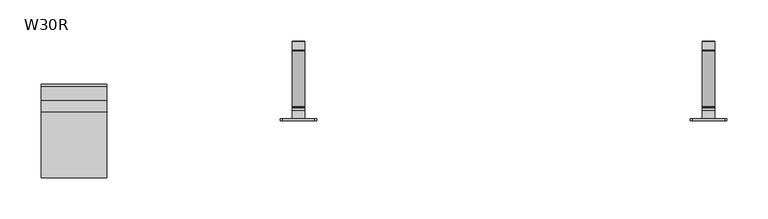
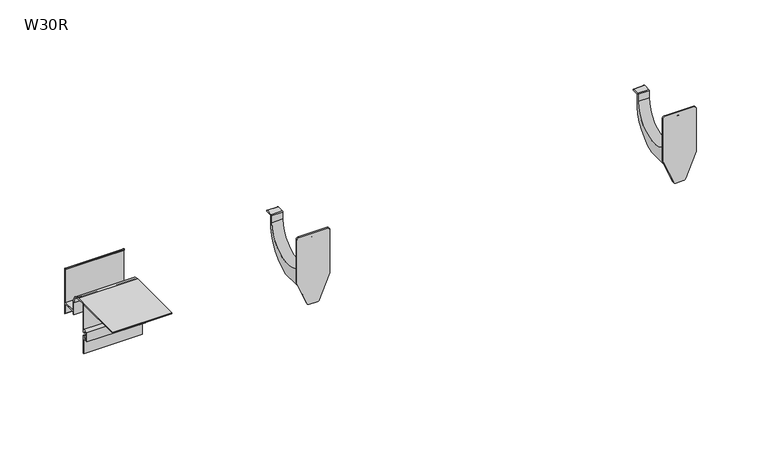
"""IFC4 building model written with IfcOpenShell, lengths in millimetres: proxy geometry, W30R Profil okapowy prosty z rynną : W30R."""

import ifcopenshell
import ifcopenshell.guid

model = None  # the IFC model being written
_history = None  # IfcOwnerHistory: only IFC2X3 demands one
_inside = {}  # id of a spatial element -> (the spatial element, [elements in it])
_under = {}  # id of a project, library or spatial element -> (it, [spatial elements below it])
_declared = {}  # id of a project -> (the project, [libraries it declares])
_typed = {}  # id of a type object -> (the type object, [elements of that type])
_made_of = {}  # id of a material, layer set ... -> (it, [elements and type objects made of it])


def new_model(schema):
    """Start an empty IFC model of exactly this schema.

    Asked for "IFC4X3", IfcOpenShell would pick the latest addendum, in which some entities
    have other attributes; the version numbers below select the first issue.
    IFC2X3 requires an IfcOwnerHistory on every rooted entity: one is made here for all.
    """
    global model, _history
    if schema == "IFC4X3":
        model = ifcopenshell.file(schema_version=(4, 3, 0, 0))
    else:
        model = ifcopenshell.file(schema=schema)
    _inside.clear()
    _under.clear()
    _declared.clear()
    _typed.clear()
    _made_of.clear()
    _history = None
    if model.schema == "IFC2X3":
        org = make("IfcOrganization", Name="unknown")
        user = make(
            "IfcPersonAndOrganization",
            ThePerson=make("IfcPerson", FamilyName="unknown"),
            TheOrganization=org,
        )
        app = make(
            "IfcApplication",
            ApplicationDeveloper=org,
            Version="unknown",
            ApplicationFullName="unknown",
            ApplicationIdentifier="unknown",
        )
        _history = make(
            "IfcOwnerHistory",
            OwningUser=user,
            OwningApplication=app,
            ChangeAction="ADDED",
            CreationDate=0,
        )
    return model


def make(cls, **values):
    """One entity of the class cls with the attributes given. An attribute that is None is left unset."""
    return model.create_entity(
        cls, **{name: value for name, value in values.items() if value is not None}
    )


def rooted(cls, **values):
    """An entity with a GlobalId (a new one), such as an element, a storey or a relation."""
    return make(cls, GlobalId=ifcopenshell.guid.new(), OwnerHistory=_history, **values)


def si_unit(unit_type, name, prefix=None):
    """IfcSIUnit, for example si_unit("LENGTHUNIT", "METRE", prefix="MILLI")."""
    return make("IfcSIUnit", UnitType=unit_type, Prefix=prefix, Name=name)


def assignment(units):
    """IfcUnitAssignment: the units of a project."""
    return None if units is None else make("IfcUnitAssignment", Units=units)


def point(xyz):
    """IfcCartesianPoint."""
    return None if xyz is None else make("IfcCartesianPoint", Coordinates=xyz)


def direction(xyz):
    """IfcDirection."""
    return None if xyz is None else make("IfcDirection", DirectionRatios=xyz)


def frame(location, z_axis=None, x_axis=None):
    """IfcAxis2Placement3D, a coordinate frame: its origin and axes. An axis left out is left unset."""
    return make(
        "IfcAxis2Placement3D",
        Location=point(location),
        Axis=direction(z_axis),
        RefDirection=direction(x_axis),
    )


def frame_2d(location, x_axis=None):
    """IfcAxis2Placement2D, a coordinate frame in the plane: its origin and x axis."""
    return make(
        "IfcAxis2Placement2D", Location=point(location), RefDirection=direction(x_axis)
    )


def origin():
    """The frame at (0, 0, 0) with its axes left unset."""
    return frame((0.0, 0.0, 0.0))


def place(relative_to, where):
    """IfcLocalPlacement: puts the frame where relative to a parent placement (None: the world)."""
    return make(
        "IfcLocalPlacement", PlacementRelTo=relative_to, RelativePlacement=where
    )


def context(
    kind, dimensions, precision=None, world=None, true_north=None, identifier=None
):
    """IfcGeometricRepresentationContext, for example the 3D "Model" context."""
    return make(
        "IfcGeometricRepresentationContext",
        ContextIdentifier=identifier,
        ContextType=kind,
        CoordinateSpaceDimension=dimensions,
        Precision=precision,
        WorldCoordinateSystem=world,
        TrueNorth=true_north,
    )


def project(units=None, contexts=None):
    """IfcProject with its units and contexts."""
    return rooted(
        "IfcProject",
        Name="project",
        RepresentationContexts=contexts,
        UnitsInContext=assignment(units),
    )


def spatial(cls, under=None, at=None, **own):
    """A site, building, storey or space (cls), placed at a placement, below another one or the project."""
    s = rooted(cls, ObjectPlacement=at, **own)
    if under is not None:
        _under.setdefault(under.id(), (under, []))[1].append(s)
    return s


def polyline(points):
    """IfcPolyline through the points."""
    return make("IfcPolyline", Points=[point(p) for p in points])


def circle_curve(where, radius):
    """IfcCircle in the frame where."""
    return make("IfcCircle", Position=where, Radius=radius)


def trimmed(basis, trim1, trim2, sense, master):
    """IfcTrimmedCurve: the piece of a basis curve between two trims."""
    return make(
        "IfcTrimmedCurve",
        BasisCurve=basis,
        Trim1=trim1,
        Trim2=trim2,
        SenseAgreement=sense,
        MasterRepresentation=master,
    )


def segment(curve, same_sense, transition):
    """IfcCompositeCurveSegment."""
    return make(
        "IfcCompositeCurveSegment",
        Transition=transition,
        SameSense=same_sense,
        ParentCurve=curve,
    )


def composite_curve(segments, self_intersect=None):
    """IfcCompositeCurve: segments joined end to end."""
    return make("IfcCompositeCurve", Segments=segments, SelfIntersect=self_intersect)


def outline(outer, holes=None, kind="AREA"):
    """IfcArbitraryClosedProfileDef: a profile drawn as a closed curve; with holes, ...WithVoids."""
    if holes is None:
        return make("IfcArbitraryClosedProfileDef", ProfileType=kind, OuterCurve=outer)
    return make(
        "IfcArbitraryProfileDefWithVoids",
        ProfileType=kind,
        OuterCurve=outer,
        InnerCurves=holes,
    )


def extrude(swept, where, along, depth):
    """IfcExtrudedAreaSolid: the profile swept, set in the frame where, extruded along a direction by depth."""
    return make(
        "IfcExtrudedAreaSolid",
        SweptArea=swept,
        Position=where,
        ExtrudedDirection=direction(along),
        Depth=depth,
    )


def shape(context_of_items, identifier, shape_type, items):
    """IfcShapeRepresentation: the items that make up one representation, for example the "Body"."""
    return make(
        "IfcShapeRepresentation",
        ContextOfItems=context_of_items,
        RepresentationIdentifier=identifier,
        RepresentationType=shape_type,
        Items=items,
    )


def source(mapping_origin, context_of_items, identifier, shape_type, items):
    """IfcRepresentationMap: a shape defined once, which mapped items show again and again."""
    return make(
        "IfcRepresentationMap",
        MappingOrigin=mapping_origin,
        MappedRepresentation=shape(context_of_items, identifier, shape_type, items),
    )


def transform(
    local_origin,
    x_axis=None,
    y_axis=None,
    z_axis=None,
    scale=None,
    scale2=None,
    scale3=None,
    uniform=True,
):
    """IfcCartesianTransformationOperator3D, or its non-uniform kind. x_axis, y_axis, z_axis: its Axis1, 2, 3."""
    if uniform:
        return make(
            "IfcCartesianTransformationOperator3D",
            Axis1=direction(x_axis),
            Axis2=direction(y_axis),
            LocalOrigin=point(local_origin),
            Scale=scale,
            Axis3=direction(z_axis),
        )
    return make(
        "IfcCartesianTransformationOperator3DnonUniform",
        Axis1=direction(x_axis),
        Axis2=direction(y_axis),
        LocalOrigin=point(local_origin),
        Scale=scale,
        Axis3=direction(z_axis),
        Scale2=scale2,
        Scale3=scale3,
    )


def mapped(mapping_source, mapping_target):
    """IfcMappedItem: shows the shape of a source again, moved by a transform."""
    return make(
        "IfcMappedItem", MappingSource=mapping_source, MappingTarget=mapping_target
    )


def made_of(thing, what):
    """Note that an element or type object is made of a material, layer set ...; save() writes the relation."""
    if what is not None:
        _made_of.setdefault(what.id(), (what, []))[1].append(thing)
    return thing


def element(
    cls,
    number,
    at=None,
    inside=None,
    cuts=None,
    type_object=None,
    material=None,
    context=None,
    identifier="Body",
    shape_type=None,
    held_by="IfcProductDefinitionShape",
    body=None,
    shapes=None,
    **own,
):
    """One element of the class cls, such as IfcWall. Its Tag is "e" and its number.

    at: its placement. inside: the storey or other place that contains it. cuts: it is an
    opening in that element (IfcRelVoidsElement). A single representation is given by context,
    identifier, shape_type and body (its items); several are given by shapes. held_by: the class
    of the entity that holds the representations. save() writes the other relations.
    """
    e = rooted(cls, Tag="e%d" % number, ObjectPlacement=at, **own)
    if body is not None:
        shapes = [shape(context, identifier, shape_type, body)]
    if shapes is not None:
        e.Representation = make(held_by, Representations=shapes)
    if inside is not None:
        _inside.setdefault(inside.id(), (inside, []))[1].append(e)
    if cuts is not None:
        rooted(
            "IfcRelVoidsElement", RelatingBuildingElement=cuts, RelatedOpeningElement=e
        )
    if type_object is not None:
        _typed.setdefault(type_object.id(), (type_object, []))[1].append(e)
    return made_of(e, material)


def aggregate(whole, parts):
    """IfcRelAggregates: a whole, such as a stair, and the parts it consists of."""
    return rooted("IfcRelAggregates", RelatingObject=whole, RelatedObjects=parts)


def save(model, path):
    """Write the relations noted so far, then the file.

    IfcRelAggregates (storeys below a building ...), IfcRelContainedInSpatialStructure (elements
    in a storey), IfcRelDefinesByType, IfcRelAssociatesMaterial and IfcRelDeclares: one each for
    every whole, place, type object, material and project.
    """
    for whole, parts in _under.values():
        aggregate(whole, parts)
    for where, things in _inside.values():
        rooted(
            "IfcRelContainedInSpatialStructure",
            RelatedElements=things,
            RelatingStructure=where,
        )
    for kind, things in _typed.values():
        rooted("IfcRelDefinesByType", RelatedObjects=things, RelatingType=kind)
    for what, things in _made_of.values():
        rooted("IfcRelAssociatesMaterial", RelatedObjects=things, RelatingMaterial=what)
    for by, libraries in _declared.values():
        rooted("IfcRelDeclares", RelatingContext=by, RelatedDefinitions=libraries)
    model.write(path)


def plane_surface(at):
    """IfcPlane: the flat surface through the origin of the frame at, square to its z axis."""
    return make("IfcPlane", Position=at)


def cylinder_surface(at, radius):
    """IfcCylindricalSurface: all points at the distance radius from the z axis of the frame at."""
    return make("IfcCylindricalSurface", Position=at, Radius=radius)


def revolved_surface(curve, axis_point, axis_direction):
    """IfcSurfaceOfRevolution: the curve turned about the line through axis_point along axis_direction."""
    return make(
        "IfcSurfaceOfRevolution",
        SweptCurve=make("IfcArbitraryOpenProfileDef", ProfileType="CURVE", Curve=curve),
        AxisPosition=make("IfcAxis1Placement", Location=point(axis_point), Axis=direction(axis_direction)),
    )


def advanced_brep(points, edges, surfaces, faces):
    """IfcAdvancedBrep: a solid bounded by faces that lie on surfaces and meet in shared edges.

    An edge is (start, end): straight between two places in points (the first is 0);
    or (start, end, curve); or (start, end, curve, False) where it runs against its curve.
    A face is (place in surfaces, loops), or (place, loops, False) where it looks against
    its surface's normal. A loop lists edges by number (the first is 1), with a minus sign
    where the edge is run from its end to its start. The first loop is the outer one.
    """
    corners = [point(p) for p in points]
    vertices = [make("IfcVertexPoint", VertexGeometry=c) for c in corners]
    made = []
    for start, end, *more in edges:
        made.append(
            make(
                "IfcEdgeCurve",
                EdgeStart=vertices[start],
                EdgeEnd=vertices[end],
                EdgeGeometry=more[0] if more else make("IfcPolyline", Points=[corners[start], corners[end]]),
                SameSense=more[1] if len(more) > 1 else True,
            )
        )
    hull = []
    for where, loops, *sense in faces:
        bounds = []
        for j, loop in enumerate(loops):
            ring = [make("IfcOrientedEdge", EdgeElement=made[abs(k) - 1], Orientation=k > 0) for k in loop]
            bounds.append(
                make(
                    "IfcFaceOuterBound" if j == 0 else "IfcFaceBound",
                    Bound=make("IfcEdgeLoop", EdgeList=ring),
                    Orientation=True,
                )
            )
        hull.append(make("IfcAdvancedFace", Bounds=bounds, FaceSurface=surfaces[where], SameSense=sense[0] if sense else True))
    return make("IfcAdvancedBrep", Outer=make("IfcClosedShell", CfsFaces=hull))


def w30r_29956e02(model_context):
    return source(origin(), model_context, "Body", "SolidModel", [
        advanced_brep(
        [(806.4889281, 43.253125, -67.3579557), (806.4889281, 43.253125, -57.4654849), (806.4889281, 44.253125, -56.4654849), (806.4889281, 54.253125, -56.4654849), (806.4889281, 54.253125, -58.4654849), (806.4889281, 45.753125, -58.4654849), (806.4889281, 45.753125, -62.0548341), (806.4889281, 45.753125, -76.6748546), (806.4889281, 11.253125, -121.4654849), (806.4889281, -39.746875, -121.4650625), (806.4889281, -39.746875, -46.4650625), (806.4889281, -29.746875, -46.4650625), (806.4889281, -26.9184479, -47.6366354), (806.4889281, -25.5042343, -49.0508489), (806.4889281, -26.9184479, -50.4650625), (806.4889281, -28.3326614, -49.0508489), (806.4889281, -33.746875, -48.4650699), (806.4889281, -31.746875, -67.3579557), (821.4889281, 43.253125, -67.3579557), (821.4889281, -31.746875, -67.3579557), (821.4889281, -33.746875, -48.4650699), (821.4889281, -28.3326614, -49.0508489), (821.4889281, -26.9184479, -50.4650625), (821.4889281, -25.5042343, -49.0508489), (821.4889281, -26.9184479, -47.6366354), (821.4889281, -29.746875, -46.4650625), (821.4889281, -39.746875, -46.4650625), (821.4889281, -39.746875, -121.4650625), (821.4889281, 11.253125, -121.4654849), (821.4889281, 45.753125, -76.6748546), (821.4889281, 45.753125, -62.0548341), (821.4889281, 45.753125, -58.4654849), (821.4889281, 54.253125, -58.4654849), (821.4889281, 54.253125, -56.4654849), (821.4889281, 44.253125, -56.4654849), (821.4889281, 43.253125, -57.4654849), (833.4889281, -39.746875, -33.4650625), (836.4889281, -39.746875, -36.4650625), (836.4889281, -39.746875, -98.4650625), (822.2581588, -39.746875, -132.6189087), (819.4889281, -39.746875, -134.4650625), (808.4889281, -39.746875, -134.4650625), (805.7196973, -39.746875, -132.6189087), (791.4889281, -39.746875, -98.4650625), (791.4889281, -39.746875, -36.4650625), (794.4889281, -39.746875, -33.4650625), (833.4889281, -41.746875, -33.4650625), (794.4889281, -41.746875, -33.4650625), (791.4889281, -41.746875, -36.4650625), (791.4889281, -41.746875, -98.4650625), (805.7196973, -41.746875, -132.6189087), (808.4889281, -41.746875, -134.4650625), (819.4889281, -41.746875, -134.4650625), (822.2581588, -41.746875, -132.6189087), (836.4889281, -41.746875, -98.4650625), (836.4889281, -41.746875, -36.4650625)],
        [
            (0, 1),
            (1, 2, circle_curve(frame((806.4889281, 44.253125, -57.4654849), z_axis=(-1.0, 0.0, 0.0), x_axis=(0.0, 1.0, 0.0)), 1.0)),
            (2, 3),
            (3, 4, circle_curve(frame((806.4889281, 54.253125, -57.4654849), z_axis=(-1.0, 0.0, 0.0), x_axis=(0.0, 1.0, 0.0)), 1.0)),
            (4, 5),
            (5, 6),
            (6, 7),
            (7, 8, circle_curve(frame((806.4889281, -6.9272146, -71.7799373), z_axis=(-1.0, 0.0, 0.0), x_axis=(0.0, 1.0, 0.0)), 52.9072622)),
            (8, 9),
            (9, 10),
            (10, 11),
            (11, 12, circle_curve(frame((806.4889281, -29.746875, -50.4650625), z_axis=(-1.0, 0.0, 0.0), x_axis=(0.0, 1.0, 0.0)), 4.0)),
            (12, 13),
            (13, 14, circle_curve(frame((806.4889281, -26.2113411, -49.7579557), z_axis=(-1.0, 0.0, 0.0), x_axis=(0.0, 1.0, 0.0)), 1.0)),
            (14, 15),
            (15, 16, circle_curve(frame((806.4889281, -32.9075381, -66.0213045), z_axis=(1.0, 0.0, 0.0), x_axis=(0.0, 1.0, 0.0)), 17.5762868)),
            (16, 17),
            (17, 0, circle_curve(frame((806.4889281, 5.753125, -67.3579557), z_axis=(1.0, 0.0, 0.0), x_axis=(0.0, 1.0, 0.0)), 37.5)),
            (18, 19, circle_curve(frame((821.4889281, 5.753125, -67.3579557), z_axis=(-1.0, 0.0, 0.0), x_axis=(0.0, 1.0, 0.0)), 37.5)),
            (19, 20),
            (20, 21, circle_curve(frame((821.4889281, -32.9075381, -66.0213045), z_axis=(-1.0, 0.0, 0.0), x_axis=(0.0, 1.0, 0.0)), 17.5762868)),
            (21, 22),
            (22, 23, circle_curve(frame((821.4889281, -26.2113411, -49.7579557), z_axis=(1.0, 0.0, 0.0), x_axis=(0.0, 1.0, 0.0)), 1.0)),
            (23, 24),
            (24, 25, circle_curve(frame((821.4889281, -29.746875, -50.4650625), z_axis=(1.0, 0.0, 0.0), x_axis=(0.0, 1.0, 0.0)), 4.0)),
            (25, 26),
            (26, 27),
            (27, 28),
            (28, 29, circle_curve(frame((821.4889281, -6.9272146, -71.7799373), z_axis=(1.0, 0.0, 0.0), x_axis=(0.0, 1.0, 0.0)), 52.9072622)),
            (29, 30),
            (30, 31),
            (31, 32),
            (32, 33, circle_curve(frame((821.4889281, 54.253125, -57.4654849), z_axis=(1.0, 0.0, 0.0), x_axis=(0.0, 1.0, 0.0)), 1.0)),
            (33, 34),
            (34, 35, circle_curve(frame((821.4889281, 44.253125, -57.4654849), z_axis=(1.0, 0.0, 0.0), x_axis=(0.0, 1.0, 0.0)), 1.0)),
            (35, 18),
            (0, 18),
            (35, 1),
            (34, 2),
            (33, 3),
            (32, 4),
            (31, 5),
            (30, 6),
            (29, 7),
            (28, 8),
            (27, 9),
            (10, 26),
            (25, 11),
            (24, 12),
            (23, 13),
            (22, 14),
            (21, 15),
            (20, 16),
            (19, 17),
            (36, 37, circle_curve(frame((833.4889281, -39.746875, -36.4650625), z_axis=(0.0, 1.0, 0.0), x_axis=(1.0, 0.0, 0.0)), 3.0)),
            (37, 38),
            (38, 39),
            (39, 40, circle_curve(frame((819.4889281, -39.746875, -131.4650625), z_axis=(0.0, 1.0, 0.0), x_axis=(1.0, 0.0, 0.0)), 3.0)),
            (40, 41),
            (41, 42, circle_curve(frame((808.4889281, -39.746875, -131.4650625), z_axis=(0.0, 1.0, 0.0), x_axis=(1.0, 0.0, 0.0)), 3.0)),
            (42, 43),
            (43, 44),
            (44, 45, circle_curve(frame((794.4889281, -39.746875, -36.4650625), z_axis=(0.0, 1.0, 0.0), x_axis=(1.0, 0.0, 0.0)), 3.0)),
            (45, 36),
            (46, 47),
            (47, 48, circle_curve(frame((794.4889281, -41.746875, -36.4650625), z_axis=(0.0, -1.0, 0.0), x_axis=(1.0, 0.0, 0.0)), 3.0)),
            (48, 49),
            (49, 50),
            (50, 51, circle_curve(frame((808.4889281, -41.746875, -131.4650625), z_axis=(0.0, -1.0, 0.0), x_axis=(1.0, 0.0, 0.0)), 3.0)),
            (51, 52),
            (52, 53, circle_curve(frame((819.4889281, -41.746875, -131.4650625), z_axis=(0.0, -1.0, 0.0), x_axis=(1.0, 0.0, 0.0)), 3.0)),
            (53, 54),
            (54, 55),
            (55, 46, circle_curve(frame((833.4889281, -41.746875, -36.4650625), z_axis=(0.0, -1.0, 0.0), x_axis=(1.0, 0.0, 0.0)), 3.0)),
            (45, 47),
            (46, 36),
            (44, 48),
            (43, 49),
            (42, 50),
            (41, 51),
            (40, 52),
            (39, 53),
            (38, 54),
            (37, 55),
        ],
        [
            plane_surface(frame((806.4889281, 43.253125, -57.4654849), z_axis=(-1.0, 0.0, 0.0), x_axis=(0.0, 0.0, -1.0))),
            plane_surface(frame((821.4889281, 43.253125, -57.4654849), z_axis=(1.0, 0.0, 0.0), x_axis=(0.0, 0.0, 1.0))),
            plane_surface(frame((821.4889281, 43.253125, -67.3579557), z_axis=(0.0, -1.0, 0.0), x_axis=(-1.0, 0.0, 0.0))),
            cylinder_surface(frame((806.4889281, 44.253125, -57.4654849), z_axis=(1.0, 0.0, 0.0), x_axis=(0.0, 1.0, 0.0)), 1.0),
            plane_surface(frame((821.4889281, 44.253125, -56.4654849), z_axis=(0.0, 0.0, 1.0), x_axis=(-1.0, 0.0, 0.0))),
            cylinder_surface(frame((806.4889281, 54.253125, -57.4654849), z_axis=(1.0, 0.0, 0.0), x_axis=(0.0, 1.0, 0.0)), 1.0),
            plane_surface(frame((821.4889281, 54.253125, -58.4654849), z_axis=(0.0, 0.0, -1.0), x_axis=(-1.0, 0.0, 0.0))),
            plane_surface(frame((821.4889281, 45.753125, -58.4654849), z_axis=(0.0, 1.0, 0.0), x_axis=(-1.0, 0.0, 0.0))),
            plane_surface(frame((821.4889281, 45.753125, -62.0548341), z_axis=(0.0, 1.0, 0.0), x_axis=(-1.0, 0.0, 0.0))),
            cylinder_surface(frame((806.4889281, -6.9272146, -71.7799373), z_axis=(1.0, 0.0, 0.0), x_axis=(0.0, 1.0, 0.0)), 52.9072622),
            plane_surface(frame((821.4889281, 11.253125, -121.4654849), z_axis=(0.0, -8.283194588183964e-06, -0.9999999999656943), x_axis=(-1.0, 0.0, 0.0))),
            plane_surface(frame((821.4889281, -40.7901639, -46.4650625), z_axis=(0.0, 0.0, 1.0), x_axis=(-1.0, 0.0, 0.0))),
            cylinder_surface(frame((806.4889281, -29.746875, -50.4650625), z_axis=(1.0, 0.0, 0.0), x_axis=(0.0, 1.0, 0.0)), 4.0),
            plane_surface(frame((821.4889281, -26.9184479, -47.6366354), z_axis=(0.0, 0.7071067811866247, 0.7071067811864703), x_axis=(-1.0, 0.0, 0.0))),
            cylinder_surface(frame((806.4889281, -26.2113411, -49.7579557), z_axis=(1.0, 0.0, 0.0), x_axis=(0.0, 1.0, 0.0)), 1.0),
            plane_surface(frame((821.4889281, -26.9184479, -50.4650625), z_axis=(0.0, -0.7071067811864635, -0.7071067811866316), x_axis=(-1.0, 0.0, 0.0))),
            revolved_surface(polyline([(806.4889281, -15.331251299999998, -66.0213045), (821.4889281, -15.331251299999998, -66.0213045)]), (806.4889281, -32.9075381, -66.0213045), (-1.0, 0.0, 0.0)),
            plane_surface(frame((821.4889281, -33.746875, -48.4650699), z_axis=(0.0, 0.9944434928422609, 0.10527174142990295), x_axis=(-1.0, 0.0, 0.0))),
            revolved_surface(polyline([(806.4889281, 43.253125, -67.3579557), (821.4889281, 43.253125, -67.3579557)]), (806.4889281, 5.753125, -67.3579557), (-1.0, 0.0, 0.0)),
            plane_surface(frame((794.4889281, -39.746875, -33.4650625), z_axis=(0.0, 1.0, 0.0), x_axis=(-1.0, 0.0, 0.0))),
            plane_surface(frame((794.4889281, -41.746875, -33.4650625), z_axis=(0.0, -1.0, 0.0), x_axis=(1.0, 0.0, 0.0))),
            plane_surface(frame((833.4889281, -39.746875, -33.4650625), z_axis=(0.0, 0.0, 1.0), x_axis=(0.0, -1.0, 0.0))),
            cylinder_surface(frame((794.4889281, -41.746875, -36.4650625), z_axis=(0.0, 1.0, 0.0), x_axis=(1.0, 0.0, 0.0)), 3.0),
            plane_surface(frame((791.4889281, -39.746875, -36.4650625), z_axis=(-1.0, 0.0, 0.0), x_axis=(0.0, -1.0, 0.0))),
            plane_surface(frame((791.4889281, -39.746875, -98.4650625), z_axis=(-0.9230769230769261, 0.0, -0.38461538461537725), x_axis=(0.0, -1.0, 0.0))),
            cylinder_surface(frame((808.4889281, -41.746875, -131.4650625), z_axis=(0.0, 1.0, 0.0), x_axis=(1.0, 0.0, 0.0)), 3.0),
            plane_surface(frame((808.4889281, -39.746875, -134.4650625), z_axis=(0.0, 0.0, -1.0), x_axis=(0.0, -1.0, 0.0))),
            cylinder_surface(frame((819.4889281, -41.746875, -131.4650625), z_axis=(0.0, 1.0, 0.0), x_axis=(1.0, 0.0, 0.0)), 3.0),
            plane_surface(frame((822.2581588, -39.746875, -132.6189087), z_axis=(0.9230769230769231, 0.0, -0.3846153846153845), x_axis=(0.0, -1.0, 0.0))),
            plane_surface(frame((836.4889281, -39.746875, -98.4650625), z_axis=(1.0, 0.0, 0.0), x_axis=(0.0, -1.0, 0.0))),
            cylinder_surface(frame((833.4889281, -41.746875, -36.4650625), z_axis=(0.0, 1.0, 0.0), x_axis=(1.0, 0.0, 0.0)), 3.0),
        ],
        [
            (0, [[1, 2, 3, 4, 5, 6, 7, 8, 9, 10, 11, 12, 13, 14, 15, 16, 17, 18]]),
            (1, [[19, 20, 21, 22, 23, 24, 25, 26, 27, 28, 29, 30, 31, 32, 33, 34, 35, 36]]),
            (2, [[37, -36, 38, -1]]),
            (3, [[-38, -35, 39, -2]]),
            (4, [[-39, -34, 40, -3]]),
            (5, [[-40, -33, 41, -4]]),
            (6, [[-41, -32, 42, -5]]),
            (7, [[-42, -31, 43, -6]]),
            (8, [[-43, -30, 44, -7]]),
            (9, [[-44, -29, 45, -8]]),
            (10, [[-28, 46, -9, -45]]),
            (11, [[-11, 47, -26, 48]]),
            (12, [[-48, -25, 49, -12]]),
            (13, [[-49, -24, 50, -13]]),
            (14, [[-50, -23, 51, -14]]),
            (15, [[-51, -22, 52, -15]]),
            (16, [[-52, -21, 53, -16]]),
            (17, [[-53, -20, 54, -17]]),
            (18, [[-54, -19, -37, -18]]),
            (19, [[55, 56, 57, 58, 59, 60, 61, 62, 63, 64], [-46, -27, -47, -10]]),
            (20, [[65, 66, 67, 68, 69, 70, 71, 72, 73, 74]]),
            (21, [[75, -65, 76, -64]]),
            (22, [[77, -66, -75, -63]]),
            (23, [[78, -67, -77, -62]]),
            (24, [[79, -68, -78, -61]]),
            (25, [[80, -69, -79, -60]]),
            (26, [[81, -70, -80, -59]]),
            (27, [[82, -71, -81, -58]]),
            (28, [[83, -72, -82, -57]]),
            (29, [[84, -73, -83, -56]]),
            (30, [[-76, -74, -84, -55]]),
        ],
    ),
        advanced_brep(
        [(306.4889281, 43.253125, -67.3579557), (306.4889281, 43.253125, -57.4654849), (306.4889281, 44.253125, -56.4654849), (306.4889281, 54.253125, -56.4654849), (306.4889281, 54.253125, -58.4654849), (306.4889281, 45.753125, -58.4654849), (306.4889281, 45.753125, -62.0548341), (306.4889281, 45.753125, -76.6748546), (306.4889281, 11.253125, -121.4654849), (306.4889281, -39.746875, -121.4650625), (306.4889281, -39.746875, -46.4650625), (306.4889281, -29.746875, -46.4650625), (306.4889281, -26.9184479, -47.6366354), (306.4889281, -25.5042343, -49.0508489), (306.4889281, -26.9184479, -50.4650625), (306.4889281, -28.3326614, -49.0508489), (306.4889281, -33.746875, -48.4650699), (306.4889281, -31.746875, -67.3579557), (321.4889281, 43.253125, -67.3579557), (321.4889281, -31.746875, -67.3579557), (321.4889281, -33.746875, -48.4650699), (321.4889281, -28.3326614, -49.0508489), (321.4889281, -26.9184479, -50.4650625), (321.4889281, -25.5042343, -49.0508489), (321.4889281, -26.9184479, -47.6366354), (321.4889281, -29.746875, -46.4650625), (321.4889281, -39.746875, -46.4650625), (321.4889281, -39.746875, -121.4650625), (321.4889281, 11.253125, -121.4654849), (321.4889281, 45.753125, -76.6748546), (321.4889281, 45.753125, -62.0548341), (321.4889281, 45.753125, -58.4654849), (321.4889281, 54.253125, -58.4654849), (321.4889281, 54.253125, -56.4654849), (321.4889281, 44.253125, -56.4654849), (321.4889281, 43.253125, -57.4654849), (333.4889281, -39.746875, -33.4650625), (336.4889281, -39.746875, -36.4650625), (336.4889281, -39.746875, -98.4650625), (322.2581588, -39.746875, -132.6189087), (319.4889281, -39.746875, -134.4650625), (308.4889281, -39.746875, -134.4650625), (305.7196973, -39.746875, -132.6189087), (291.4889281, -39.746875, -98.4650625), (291.4889281, -39.746875, -36.4650625), (294.4889281, -39.746875, -33.4650625), (333.4889281, -41.746875, -33.4650625), (294.4889281, -41.746875, -33.4650625), (291.4889281, -41.746875, -36.4650625), (291.4889281, -41.746875, -98.4650625), (305.7196973, -41.746875, -132.6189087), (308.4889281, -41.746875, -134.4650625), (319.4889281, -41.746875, -134.4650625), (322.2581588, -41.746875, -132.6189087), (336.4889281, -41.746875, -98.4650625), (336.4889281, -41.746875, -36.4650625)],
        [
            (0, 1),
            (1, 2, circle_curve(frame((306.4889281, 44.253125, -57.4654849), z_axis=(-1.0, 0.0, 0.0), x_axis=(0.0, 1.0, 0.0)), 1.0)),
            (2, 3),
            (3, 4, circle_curve(frame((306.4889281, 54.253125, -57.4654849), z_axis=(-1.0, 0.0, 0.0), x_axis=(0.0, 1.0, 0.0)), 1.0)),
            (4, 5),
            (5, 6),
            (6, 7),
            (7, 8, circle_curve(frame((306.4889281, -6.9272146, -71.7799373), z_axis=(-1.0, 0.0, 0.0), x_axis=(0.0, 1.0, 0.0)), 52.9072622)),
            (8, 9),
            (9, 10),
            (10, 11),
            (11, 12, circle_curve(frame((306.4889281, -29.746875, -50.4650625), z_axis=(-1.0, 0.0, 0.0), x_axis=(0.0, 1.0, 0.0)), 4.0)),
            (12, 13),
            (13, 14, circle_curve(frame((306.4889281, -26.2113411, -49.7579557), z_axis=(-1.0, 0.0, 0.0), x_axis=(0.0, 1.0, 0.0)), 1.0)),
            (14, 15),
            (15, 16, circle_curve(frame((306.4889281, -32.9075381, -66.0213045), z_axis=(1.0, 0.0, 0.0), x_axis=(0.0, 1.0, 0.0)), 17.5762868)),
            (16, 17),
            (17, 0, circle_curve(frame((306.4889281, 5.753125, -67.3579557), z_axis=(1.0, 0.0, 0.0), x_axis=(0.0, 1.0, 0.0)), 37.5)),
            (18, 19, circle_curve(frame((321.4889281, 5.753125, -67.3579557), z_axis=(-1.0, 0.0, 0.0), x_axis=(0.0, 1.0, 0.0)), 37.5)),
            (19, 20),
            (20, 21, circle_curve(frame((321.4889281, -32.9075381, -66.0213045), z_axis=(-1.0, 0.0, 0.0), x_axis=(0.0, 1.0, 0.0)), 17.5762868)),
            (21, 22),
            (22, 23, circle_curve(frame((321.4889281, -26.2113411, -49.7579557), z_axis=(1.0, 0.0, 0.0), x_axis=(0.0, 1.0, 0.0)), 1.0)),
            (23, 24),
            (24, 25, circle_curve(frame((321.4889281, -29.746875, -50.4650625), z_axis=(1.0, 0.0, 0.0), x_axis=(0.0, 1.0, 0.0)), 4.0)),
            (25, 26),
            (26, 27),
            (27, 28),
            (28, 29, circle_curve(frame((321.4889281, -6.9272146, -71.7799373), z_axis=(1.0, 0.0, 0.0), x_axis=(0.0, 1.0, 0.0)), 52.9072622)),
            (29, 30),
            (30, 31),
            (31, 32),
            (32, 33, circle_curve(frame((321.4889281, 54.253125, -57.4654849), z_axis=(1.0, 0.0, 0.0), x_axis=(0.0, 1.0, 0.0)), 1.0)),
            (33, 34),
            (34, 35, circle_curve(frame((321.4889281, 44.253125, -57.4654849), z_axis=(1.0, 0.0, 0.0), x_axis=(0.0, 1.0, 0.0)), 1.0)),
            (35, 18),
            (0, 18),
            (35, 1),
            (34, 2),
            (33, 3),
            (32, 4),
            (31, 5),
            (30, 6),
            (29, 7),
            (28, 8),
            (27, 9),
            (10, 26),
            (25, 11),
            (24, 12),
            (23, 13),
            (22, 14),
            (21, 15),
            (20, 16),
            (19, 17),
            (36, 37, circle_curve(frame((333.4889281, -39.746875, -36.4650625), z_axis=(0.0, 1.0, 0.0), x_axis=(1.0, 0.0, 0.0)), 3.0)),
            (37, 38),
            (38, 39),
            (39, 40, circle_curve(frame((319.4889281, -39.746875, -131.4650625), z_axis=(0.0, 1.0, 0.0), x_axis=(1.0, 0.0, 0.0)), 3.0)),
            (40, 41),
            (41, 42, circle_curve(frame((308.4889281, -39.746875, -131.4650625), z_axis=(0.0, 1.0, 0.0), x_axis=(1.0, 0.0, 0.0)), 3.0)),
            (42, 43),
            (43, 44),
            (44, 45, circle_curve(frame((294.4889281, -39.746875, -36.4650625), z_axis=(0.0, 1.0, 0.0), x_axis=(1.0, 0.0, 0.0)), 3.0)),
            (45, 36),
            (46, 47),
            (47, 48, circle_curve(frame((294.4889281, -41.746875, -36.4650625), z_axis=(0.0, -1.0, 0.0), x_axis=(1.0, 0.0, 0.0)), 3.0)),
            (48, 49),
            (49, 50),
            (50, 51, circle_curve(frame((308.4889281, -41.746875, -131.4650625), z_axis=(0.0, -1.0, 0.0), x_axis=(1.0, 0.0, 0.0)), 3.0)),
            (51, 52),
            (52, 53, circle_curve(frame((319.4889281, -41.746875, -131.4650625), z_axis=(0.0, -1.0, 0.0), x_axis=(1.0, 0.0, 0.0)), 3.0)),
            (53, 54),
            (54, 55),
            (55, 46, circle_curve(frame((333.4889281, -41.746875, -36.4650625), z_axis=(0.0, -1.0, 0.0), x_axis=(1.0, 0.0, 0.0)), 3.0)),
            (45, 47),
            (46, 36),
            (44, 48),
            (43, 49),
            (42, 50),
            (41, 51),
            (40, 52),
            (39, 53),
            (38, 54),
            (37, 55),
        ],
        [
            plane_surface(frame((306.4889281, 43.253125, -57.4654849), z_axis=(-1.0, 0.0, 0.0), x_axis=(0.0, 0.0, -1.0))),
            plane_surface(frame((321.4889281, 43.253125, -57.4654849), z_axis=(1.0, 0.0, 0.0), x_axis=(0.0, 0.0, 1.0))),
            plane_surface(frame((321.4889281, 43.253125, -67.3579557), z_axis=(0.0, -1.0, 0.0), x_axis=(-1.0, 0.0, 0.0))),
            cylinder_surface(frame((306.4889281, 44.253125, -57.4654849), z_axis=(1.0, 0.0, 0.0), x_axis=(0.0, 1.0, 0.0)), 1.0),
            plane_surface(frame((321.4889281, 44.253125, -56.4654849), z_axis=(0.0, 0.0, 1.0), x_axis=(-1.0, 0.0, 0.0))),
            cylinder_surface(frame((306.4889281, 54.253125, -57.4654849), z_axis=(1.0, 0.0, 0.0), x_axis=(0.0, 1.0, 0.0)), 1.0),
            plane_surface(frame((321.4889281, 54.253125, -58.4654849), z_axis=(0.0, 0.0, -1.0), x_axis=(-1.0, 0.0, 0.0))),
            plane_surface(frame((321.4889281, 45.753125, -58.4654849), z_axis=(0.0, 1.0, 0.0), x_axis=(-1.0, 0.0, 0.0))),
            plane_surface(frame((321.4889281, 45.753125, -62.0548341), z_axis=(0.0, 1.0, 0.0), x_axis=(-1.0, 0.0, 0.0))),
            cylinder_surface(frame((306.4889281, -6.9272146, -71.7799373), z_axis=(1.0, 0.0, 0.0), x_axis=(0.0, 1.0, 0.0)), 52.9072622),
            plane_surface(frame((321.4889281, 11.253125, -121.4654849), z_axis=(0.0, -8.283194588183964e-06, -0.9999999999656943), x_axis=(-1.0, 0.0, 0.0))),
            plane_surface(frame((321.4889281, -40.7901639, -46.4650625), z_axis=(0.0, 0.0, 1.0), x_axis=(-1.0, 0.0, 0.0))),
            cylinder_surface(frame((306.4889281, -29.746875, -50.4650625), z_axis=(1.0, 0.0, 0.0), x_axis=(0.0, 1.0, 0.0)), 4.0),
            plane_surface(frame((321.4889281, -26.9184479, -47.6366354), z_axis=(0.0, 0.7071067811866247, 0.7071067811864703), x_axis=(-1.0, 0.0, 0.0))),
            cylinder_surface(frame((306.4889281, -26.2113411, -49.7579557), z_axis=(1.0, 0.0, 0.0), x_axis=(0.0, 1.0, 0.0)), 1.0),
            plane_surface(frame((321.4889281, -26.9184479, -50.4650625), z_axis=(0.0, -0.7071067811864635, -0.7071067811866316), x_axis=(-1.0, 0.0, 0.0))),
            revolved_surface(polyline([(306.4889281, -15.331251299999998, -66.0213045), (321.4889281, -15.331251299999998, -66.0213045)]), (306.4889281, -32.9075381, -66.0213045), (-1.0, 0.0, 0.0)),
            plane_surface(frame((321.4889281, -33.746875, -48.4650699), z_axis=(0.0, 0.9944434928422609, 0.10527174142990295), x_axis=(-1.0, 0.0, 0.0))),
            revolved_surface(polyline([(306.4889281, 43.253125, -67.3579557), (321.4889281, 43.253125, -67.3579557)]), (306.4889281, 5.753125, -67.3579557), (-1.0, 0.0, 0.0)),
            plane_surface(frame((294.4889281, -39.746875, -33.4650625), z_axis=(0.0, 1.0, 0.0), x_axis=(-1.0, 0.0, 0.0))),
            plane_surface(frame((294.4889281, -41.746875, -33.4650625), z_axis=(0.0, -1.0, 0.0), x_axis=(1.0, 0.0, 0.0))),
            plane_surface(frame((333.4889281, -39.746875, -33.4650625), z_axis=(0.0, 0.0, 1.0), x_axis=(0.0, -1.0, 0.0))),
            cylinder_surface(frame((294.4889281, -41.746875, -36.4650625), z_axis=(0.0, 1.0, 0.0), x_axis=(1.0, 0.0, 0.0)), 3.0),
            plane_surface(frame((291.4889281, -39.746875, -36.4650625), z_axis=(-1.0, 0.0, 0.0), x_axis=(0.0, -1.0, 0.0))),
            plane_surface(frame((291.4889281, -39.746875, -98.4650625), z_axis=(-0.9230769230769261, 0.0, -0.38461538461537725), x_axis=(0.0, -1.0, 0.0))),
            cylinder_surface(frame((308.4889281, -41.746875, -131.4650625), z_axis=(0.0, 1.0, 0.0), x_axis=(1.0, 0.0, 0.0)), 3.0),
            plane_surface(frame((308.4889281, -39.746875, -134.4650625), z_axis=(0.0, 0.0, -1.0), x_axis=(0.0, -1.0, 0.0))),
            cylinder_surface(frame((319.4889281, -41.746875, -131.4650625), z_axis=(0.0, 1.0, 0.0), x_axis=(1.0, 0.0, 0.0)), 3.0),
            plane_surface(frame((322.2581588, -39.746875, -132.6189087), z_axis=(0.9230769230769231, 0.0, -0.3846153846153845), x_axis=(0.0, -1.0, 0.0))),
            plane_surface(frame((336.4889281, -39.746875, -98.4650625), z_axis=(1.0, 0.0, 0.0), x_axis=(0.0, -1.0, 0.0))),
            cylinder_surface(frame((333.4889281, -41.746875, -36.4650625), z_axis=(0.0, 1.0, 0.0), x_axis=(1.0, 0.0, 0.0)), 3.0),
        ],
        [
            (0, [[1, 2, 3, 4, 5, 6, 7, 8, 9, 10, 11, 12, 13, 14, 15, 16, 17, 18]]),
            (1, [[19, 20, 21, 22, 23, 24, 25, 26, 27, 28, 29, 30, 31, 32, 33, 34, 35, 36]]),
            (2, [[37, -36, 38, -1]]),
            (3, [[-38, -35, 39, -2]]),
            (4, [[-39, -34, 40, -3]]),
            (5, [[-40, -33, 41, -4]]),
            (6, [[-41, -32, 42, -5]]),
            (7, [[-42, -31, 43, -6]]),
            (8, [[-43, -30, 44, -7]]),
            (9, [[-44, -29, 45, -8]]),
            (10, [[-28, 46, -9, -45]]),
            (11, [[-11, 47, -26, 48]]),
            (12, [[-48, -25, 49, -12]]),
            (13, [[-49, -24, 50, -13]]),
            (14, [[-50, -23, 51, -14]]),
            (15, [[-51, -22, 52, -15]]),
            (16, [[-52, -21, 53, -16]]),
            (17, [[-53, -20, 54, -17]]),
            (18, [[-54, -19, -37, -18]]),
            (19, [[55, 56, 57, 58, 59, 60, 61, 62, 63, 64], [-46, -27, -47, -10]]),
            (20, [[65, 66, 67, 68, 69, 70, 71, 72, 73, 74]]),
            (21, [[75, -65, 76, -64]]),
            (22, [[77, -66, -75, -63]]),
            (23, [[78, -67, -77, -62]]),
            (24, [[79, -68, -78, -61]]),
            (25, [[80, -69, -79, -60]]),
            (26, [[81, -70, -80, -59]]),
            (27, [[82, -71, -81, -58]]),
            (28, [[83, -72, -82, -57]]),
            (29, [[84, -73, -83, -56]]),
            (30, [[-76, -74, -84, -55]]),
        ],
    ),
        extrude(outline(composite_curve([segment(polyline([(-41.76, -66.726163), (-43.76, -66.726163), (-43.76, -63.126163), (-48.96, -63.126163), (-48.96, -74.326163), (-43.76, -74.326163), (-43.76, -70.726163), (-41.76, -70.726163), (-41.76, -97.190163), (-43.04, -97.190163), (-43.04, -75.526163), (-50.32, -75.526163), (-50.32, -61.926163), (-43.12, -61.926163), (-43.12, -25.926163), (-111.68, -25.926163), (-111.68, -24.006163), (-31.36, -24.006163)]), True, "CONTINUOUS"), segment(trimmed(circle_curve(frame_2d((-31.36, -37.606163)), 13.6), [point((-31.36, -24.006163))], [point((-17.76, -37.606163))], False, "CARTESIAN"), True, "CONTINUOUS"), segment(polyline([(-17.76, -37.606163), (-17.76, -49.846163), (0.8, -49.846163), (0.8, -2.2327357)]), True, "CONTINUOUS"), segment(trimmed(circle_curve(frame_2d((0.0, -2.2327357)), 0.8), [point((0.8, -2.2327357))], [point((0.0, -1.4327357))], True, "CARTESIAN"), True, "CONTINUOUS"), segment(polyline([(0.0, -1.4327357), (0.0, 0.0)]), True, "CONTINUOUS"), segment(trimmed(circle_curve(frame_2d((0.0, -2.24)), 2.24), [point((0.0, 0.0))], [point((2.24, -2.24))], False, "CARTESIAN"), True, "CONTINUOUS"), segment(polyline([(2.24, -2.24), (2.24, -66.416302), (1.04, -65.216302), (1.04, -51.766163), (-17.76, -51.766163), (-17.76, -55.0930368), (-19.68, -55.0930368), (-19.68, -37.606163)]), True, "CONTINUOUS"), segment(trimmed(circle_curve(frame_2d((-31.36, -37.606163)), 11.68), [point((-19.68, -37.606163))], [point((-31.36, -25.926163))], True, "CARTESIAN"), True, "CONTINUOUS"), segment(polyline([(-31.36, -25.926163), (-41.76, -25.926163), (-41.76, -66.726163)]), True, "CONTINUOUS")], self_intersect=False)), frame((0.0, 0.0, 0.0), z_axis=(1.0, 0.0, 0.0), x_axis=(0.0, 1.0, 0.0)), (0.0, 0.0, 1.0), 80.0),
    ])


if __name__ == "__main__":
    model = new_model("IFC4")
    model_context = context("Model", 3, world=origin())
    ifc_project = project(units=[si_unit("LENGTHUNIT", "METRE", prefix="MILLI")], contexts=[model_context])
    site = spatial("IfcSite", under=ifc_project)
    building = spatial("IfcBuilding", under=site)
    placement = place(None, origin())
    w30r_shape = w30r_29956e02(model_context)
    element("IfcBuildingElementProxy", 1, Name="W30R Profil okapowy prosty z rynną : W30R", ObjectType="W30R Profil okapowy prosty z rynną : W30R", at=placement, inside=building, context=model_context, shape_type="MappedRepresentation", body=[
        mapped(w30r_shape, transform((0.0, 0.0, 0.0), x_axis=(1.0, 0.0, 0.0), y_axis=(0.0, 1.0, 0.0), z_axis=(0.0, 0.0, 1.0))),
    ])
    save(model, "model.ifc")
